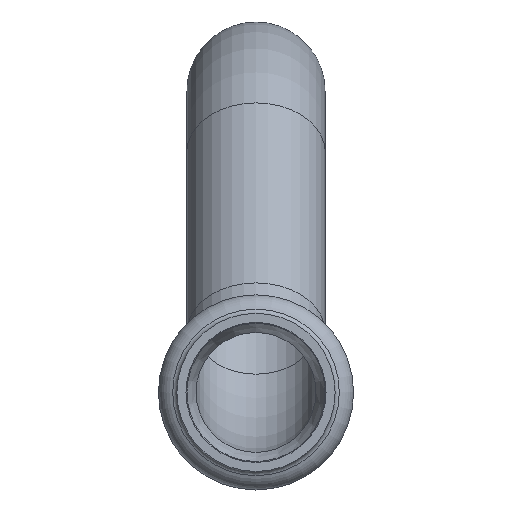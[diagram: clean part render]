
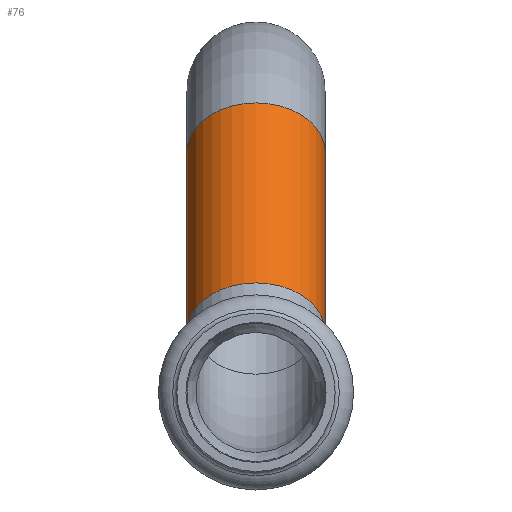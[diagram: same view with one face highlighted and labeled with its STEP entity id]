
A CAD part, front view. The second image highlights one B-rep face of the part: STEP entity #76.
In plain terms, the highlighted cylindrical face has radius 11 mm (diameter 22 mm), a full revolution.
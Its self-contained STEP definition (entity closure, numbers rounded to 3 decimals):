
#76=ADVANCED_FACE('',(#289,#291),#293,.T.);
#289=FACE_OUTER_BOUND('',#290,.T.);
#290=EDGE_LOOP('',(#397));
#291=FACE_OUTER_BOUND('',#292,.T.);
#292=EDGE_LOOP('',(#398));
#293=CYLINDRICAL_SURFACE('',#294,11.);
#294=AXIS2_PLACEMENT_3D('',#295,#296,#297);
#295=CARTESIAN_POINT('',(0.,69.665,9.665));
#296=DIRECTION('',(0.,0.707,0.707));
#297=DIRECTION('',(-1.,0.,0.));
#397=ORIENTED_EDGE('',*,*,#437,.F.);
#398=ORIENTED_EDGE('',*,*,#435,.T.);
#435=EDGE_CURVE('',#494,#494,#495,.T.);
#437=EDGE_CURVE('',#498,#498,#499,.T.);
#494=VERTEX_POINT('',#638);
#495=CIRCLE('',#639,11.);
#498=VERTEX_POINT('',#648);
#499=CIRCLE('',#649,11.);
#638=CARTESIAN_POINT('',(-11.,69.665,9.665));
#639=AXIS2_PLACEMENT_3D('',#640,#641,#642);
#640=CARTESIAN_POINT('',(0.,69.665,9.665));
#641=DIRECTION('',(0.,0.707,0.707));
#642=DIRECTION('',(-1.,0.,0.));
#648=CARTESIAN_POINT('',(-11.,98.335,38.335));
#649=AXIS2_PLACEMENT_3D('',#650,#651,#652);
#650=CARTESIAN_POINT('',(0.,98.335,38.335));
#651=DIRECTION('',(0.,0.707,0.707));
#652=DIRECTION('',(-1.,0.,0.));
